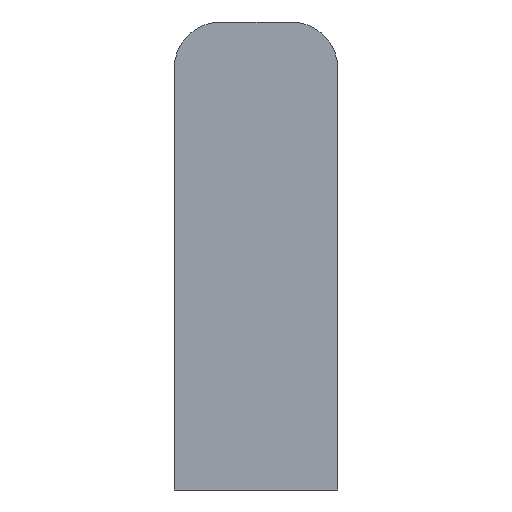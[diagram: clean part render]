
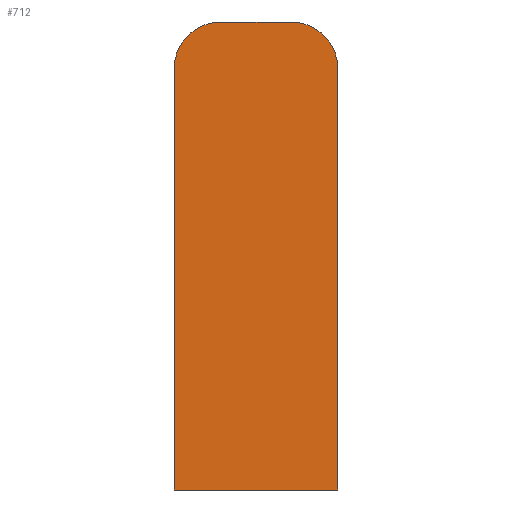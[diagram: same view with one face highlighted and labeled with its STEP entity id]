
A CAD part, front view. The second image highlights one B-rep face of the part: STEP entity #712.
In plain terms, the highlighted planar face has unit normal (0, -1, 0).
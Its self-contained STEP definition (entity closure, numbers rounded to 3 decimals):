
#24 = VERTEX_POINT ( 'NONE', #55 ) ;
#26 = VERTEX_POINT ( 'NONE', #57 ) ;
#36 = VERTEX_POINT ( 'NONE', #80 ) ;
#44 = VERTEX_POINT ( 'NONE', #72 ) ;
#46 = VERTEX_POINT ( 'NONE', #73 ) ;
#47 = VERTEX_POINT ( 'NONE', #61 ) ;
#55 = CARTESIAN_POINT ( 'NONE',  ( -2.25, 0., 13.5 ) ) ;
#57 = CARTESIAN_POINT ( 'NONE',  ( 2.25, 0., 13.5 ) ) ;
#61 = CARTESIAN_POINT ( 'NONE',  ( 5.25, 0., -16.5 ) ) ;
#72 = CARTESIAN_POINT ( 'NONE',  ( -5.25, 0., 10.5 ) ) ;
#73 = CARTESIAN_POINT ( 'NONE',  ( 5.25, 0., 10.5 ) ) ;
#80 = CARTESIAN_POINT ( 'NONE',  ( -5.25, 0., -16.5 ) ) ;
#114 = CARTESIAN_POINT ( 'NONE',  ( -5.25, 0., -16.5 ) ) ;
#118 = DIRECTION ( 'NONE',  ( 0., 0., -1. ) ) ;
#165 = CARTESIAN_POINT ( 'NONE',  ( -2.25, 0., 10.5 ) ) ;
#166 = DIRECTION ( 'NONE',  ( 0., -1., 0. ) ) ;
#167 = DIRECTION ( 'NONE',  ( -1., 0., 0. ) ) ;
#170 = CARTESIAN_POINT ( 'NONE',  ( 2.25, 0., 10.5 ) ) ;
#183 = DIRECTION ( 'NONE',  ( 0., -1., 0. ) ) ;
#184 = DIRECTION ( 'NONE',  ( -1., 0., 0. ) ) ;
#192 = CARTESIAN_POINT ( 'NONE',  ( 5.25, 0., -16.5 ) ) ;
#193 = DIRECTION ( 'NONE',  ( 0., 0., 1. ) ) ;
#201 = CARTESIAN_POINT ( 'NONE',  ( 2.25, 0., 13.5 ) ) ;
#202 = DIRECTION ( 'NONE',  ( -1., 0., 0. ) ) ;
#211 = CARTESIAN_POINT ( 'NONE',  ( 5.25, 0., -16.5 ) ) ;
#212 = DIRECTION ( 'NONE',  ( 1., 0., 0. ) ) ;
#245 = PLANE ( 'NONE',  #385 ) ;
#248 = CARTESIAN_POINT ( 'NONE',  ( 0., 0., -1.5 ) ) ;
#254 = DIRECTION ( 'NONE',  ( 0., 1., 0. ) ) ;
#255 = DIRECTION ( 'NONE',  ( -1., 0., 0. ) ) ;
#336 = EDGE_CURVE ( 'NONE', #44, #36, #527, .T. ) ;
#342 = AXIS2_PLACEMENT_3D ( 'NONE', #165, #166, #167 ) ;
#381 = EDGE_CURVE ( 'NONE', #24, #44, #619, .T. ) ;
#385 = AXIS2_PLACEMENT_3D ( 'NONE', #248, #254, #255 ) ;
#400 = EDGE_CURVE ( 'NONE', #46, #26, #632, .T. ) ;
#404 = EDGE_CURVE ( 'NONE', #47, #46, #622, .T. ) ;
#415 = EDGE_CURVE ( 'NONE', #26, #24, #643, .T. ) ;
#419 = EDGE_CURVE ( 'NONE', #36, #47, #635, .T. ) ;
#420 = AXIS2_PLACEMENT_3D ( 'NONE', #170, #183, #184 ) ;
#487 = EDGE_LOOP ( 'NONE', ( #594, #593, #592, #591, #590, #589 ) ) ;
#521 = VECTOR ( 'NONE', #118, 1000. ) ;
#527 = LINE ( 'NONE', #114, #521 ) ;
#589 = ORIENTED_EDGE ( 'NONE', *, *, #419, .T. ) ;
#590 = ORIENTED_EDGE ( 'NONE', *, *, #336, .T. ) ;
#591 = ORIENTED_EDGE ( 'NONE', *, *, #381, .T. ) ;
#592 = ORIENTED_EDGE ( 'NONE', *, *, #415, .T. ) ;
#593 = ORIENTED_EDGE ( 'NONE', *, *, #400, .T. ) ;
#594 = ORIENTED_EDGE ( 'NONE', *, *, #404, .T. ) ;
#619 = CIRCLE ( 'NONE', #342, 3. ) ;
#622 = LINE ( 'NONE', #192, #631 ) ;
#631 = VECTOR ( 'NONE', #193, 1000. ) ;
#632 = CIRCLE ( 'NONE', #420, 3. ) ;
#635 = LINE ( 'NONE', #211, #639 ) ;
#639 = VECTOR ( 'NONE', #212, 1000. ) ;
#643 = LINE ( 'NONE', #201, #644 ) ;
#644 = VECTOR ( 'NONE', #202, 1000. ) ;
#670 = FACE_OUTER_BOUND ( 'NONE', #487, .T. ) ;
#712 = ADVANCED_FACE ( 'NONE', ( #670 ), #245, .F. ) ;
